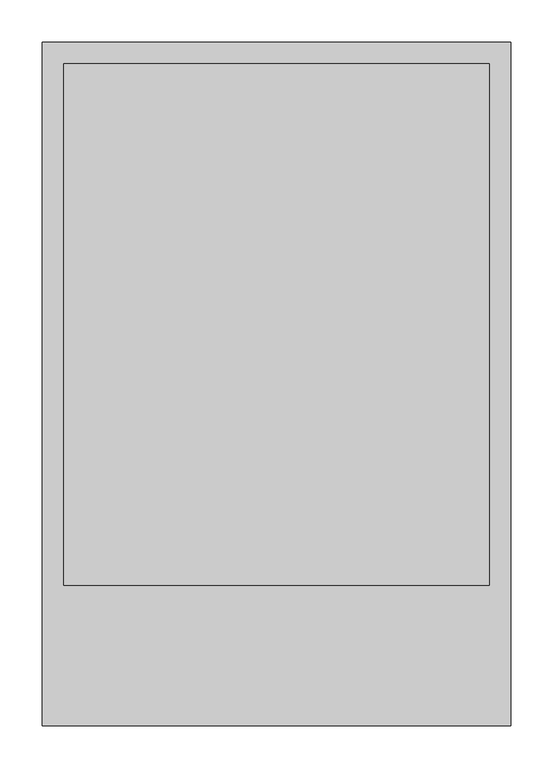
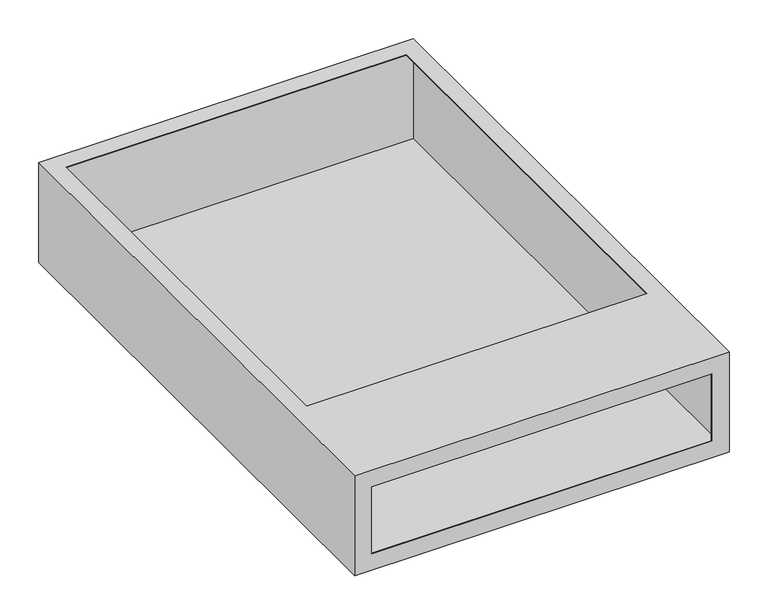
"""IFC4 building model written with IfcOpenShell, lengths in millimetres: valve geometry, USYSTEMS_Коллекторный шкаф_Накладной : 555x160 мм."""

from ifc_helpers import new_model, si_unit, origin, place, context, project, spatial, faceted_brep, source, transform, mapped, element, save


def valve_1c49150c(model_context):
    return source(origin(), model_context, "Body", "Brep", [
        faceted_brep([(277.5, 405.0, 156.0), (-277.5, 405.0, 156.0), (-277.5, -405.0, 156.0), (277.5, -405.0, 156.0), (-252.0, 379.5, 156.0), (252.0, 379.5, 156.0), (252.0, -238.5, 156.0), (-252.0, -238.5, 156.0), (277.5, 405.0, 0.0), (277.5, -405.0, 0.0), (-277.5, -405.0, 0.0), (-277.5, 405.0, 0.0), (-252.0, -405.0, 130.5), (252.0, -405.0, 130.5), (252.0, -405.0, 25.5), (-252.0, -405.0, 25.5), (-252.0, 379.5, 155.0), (252.0, 379.5, 155.0), (-252.0, -238.5, 155.0), (252.0, -238.5, 155.0), (276.5, 404.0, 155.0), (276.5, -404.0, 155.0), (-276.5, -404.0, 155.0), (-276.5, 404.0, 155.0), (276.5, 404.0, 1.0), (-276.5, 404.0, 1.0), (-276.5, -404.0, 1.0), (276.5, -404.0, 1.0), (252.0, -404.0, 130.5), (-252.0, -404.0, 130.5), (-252.0, -404.0, 25.5), (252.0, -404.0, 25.5)], [[[0, 1, 2, 3], [4, 5, 6, 7]], [[8, 9, 10, 11]], [[1, 0, 8, 11]], [[2, 1, 11, 10]], [[3, 2, 10, 9], [12, 13, 14, 15]], [[0, 3, 9, 8]], [[4, 16, 17, 5]], [[16, 4, 7, 18]], [[18, 7, 6, 19]], [[5, 17, 19, 6]], [[20, 21, 22, 23], [17, 16, 18, 19]], [[24, 25, 26, 27]], [[20, 23, 25, 24]], [[23, 22, 26, 25]], [[22, 21, 27, 26], [28, 29, 30, 31]], [[21, 20, 24, 27]], [[28, 13, 12, 29]], [[29, 12, 15, 30]], [[30, 15, 14, 31]], [[13, 28, 31, 14]]]),
    ])


if __name__ == "__main__":
    model = new_model("IFC4")
    model_context = context("Model", 3, world=origin())
    ifc_project = project(units=[si_unit("LENGTHUNIT", "METRE", prefix="MILLI")], contexts=[model_context])
    site = spatial("IfcSite", under=ifc_project)
    building = spatial("IfcBuilding", under=site)
    placement = place(None, origin())
    valve_shape = valve_1c49150c(model_context)
    element("IfcValve", 1, ObjectType="USYSTEMS_Коллекторный шкаф_Накладной : 555x160 мм", at=placement, inside=building, context=model_context, shape_type="MappedRepresentation", body=[
        mapped(valve_shape, transform((0.0, 0.0, 0.0), x_axis=(1.0, 0.0, 0.0), y_axis=(0.0, 1.0, 0.0), z_axis=(0.0, 0.0, 1.0))),
    ])
    save(model, "model.ifc")
